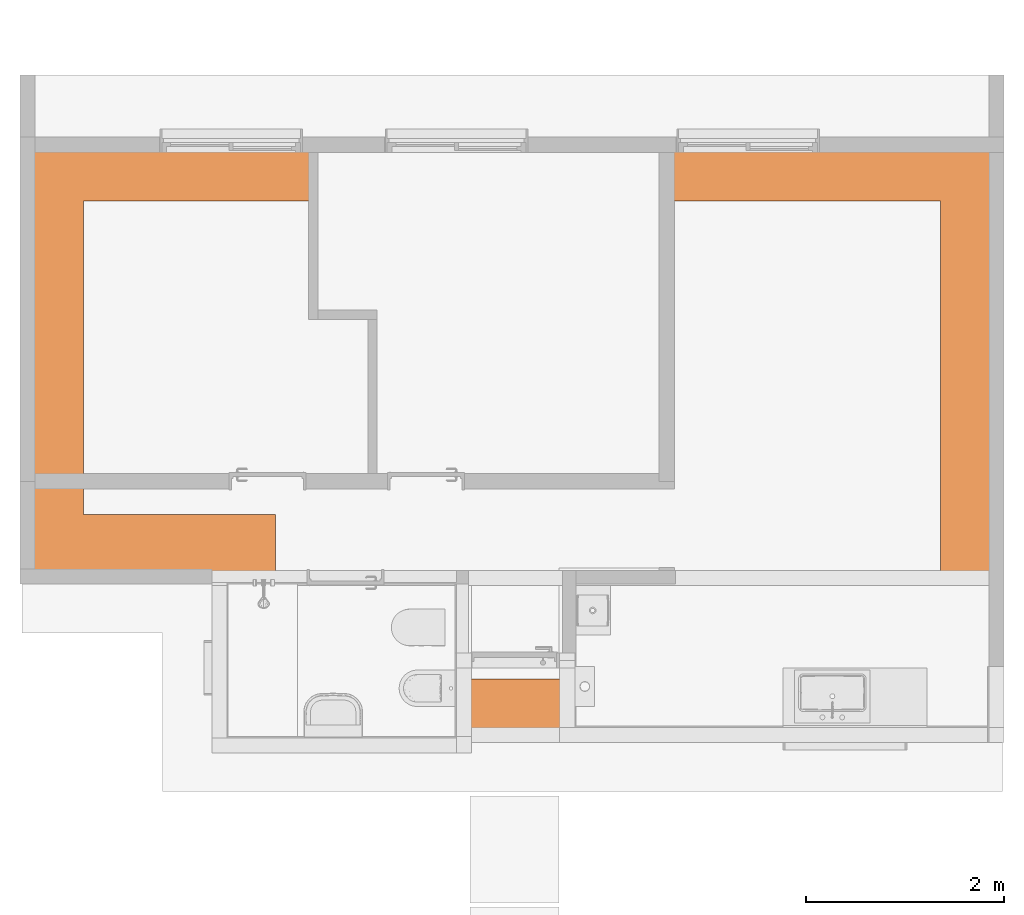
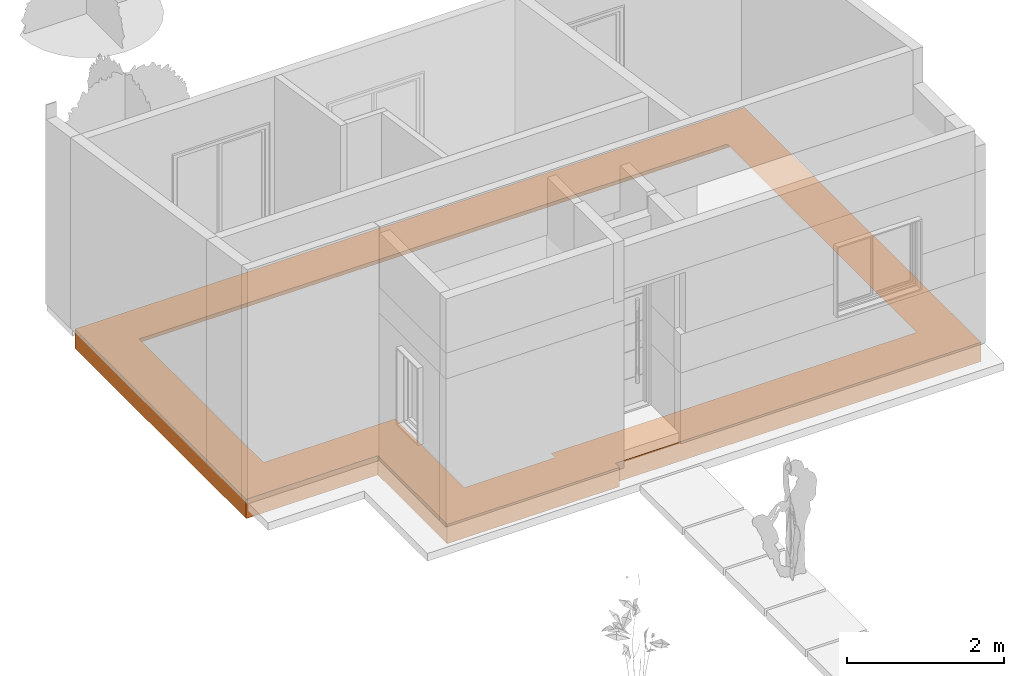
# One storey, part 8 of 8: 1 proxy.
"""IFC2X3 building model written with IfcOpenShell, lengths in metres."""

from ifc_helpers import new_model, entity, si_unit, converted_unit, derived_unit, direction, frame, origin, place, context, subcontext, project, spatial, faceted_brep, element, save


model = new_model("IFC2X3")

# Units and contexts
model_context = context("Model", 3, precision=1e-05, world=origin(), true_north=direction((6.12303176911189e-17, 1.0)))
body_context = subcontext(model_context, "Body", "Model", "MODEL_VIEW")
ifc_project = project(units=[si_unit("LENGTHUNIT", "METRE"), si_unit("AREAUNIT", "SQUARE_METRE"), si_unit("VOLUMEUNIT", "CUBIC_METRE"), converted_unit("PLANEANGLEUNIT", "DEGREE", entity("IfcRatioMeasure", 0.0174532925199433), si_unit("PLANEANGLEUNIT", "RADIAN"), dimensions=[0, 0, 0, 0, 0, 0, 0]), si_unit("MASSUNIT", "GRAM", prefix="KILO"), derived_unit("MASSDENSITYUNIT", [(si_unit("MASSUNIT", "GRAM", prefix="KILO"), 1), (si_unit("LENGTHUNIT", "METRE"), -3)]), si_unit("TIMEUNIT", "SECOND"), si_unit("FREQUENCYUNIT", "HERTZ"), si_unit("THERMODYNAMICTEMPERATUREUNIT", "DEGREE_CELSIUS"), derived_unit("THERMALTRANSMITTANCEUNIT", [(si_unit("MASSUNIT", "GRAM", prefix="KILO"), 1), (si_unit("THERMODYNAMICTEMPERATUREUNIT", "KELVIN"), -1), (si_unit("TIMEUNIT", "SECOND"), -3)]), derived_unit("VOLUMETRICFLOWRATEUNIT", [(si_unit("LENGTHUNIT", "METRE"), 3), (si_unit("TIMEUNIT", "SECOND"), -1)]), si_unit("ELECTRICCURRENTUNIT", "AMPERE"), si_unit("ELECTRICVOLTAGEUNIT", "VOLT"), si_unit("POWERUNIT", "WATT"), si_unit("FORCEUNIT", "NEWTON", prefix="KILO"), si_unit("ILLUMINANCEUNIT", "LUX"), si_unit("LUMINOUSFLUXUNIT", "LUMEN"), si_unit("LUMINOUSINTENSITYUNIT", "CANDELA"), derived_unit("USERDEFINED", [(si_unit("MASSUNIT", "GRAM", prefix="KILO"), -1), (si_unit("LENGTHUNIT", "METRE"), -2), (si_unit("TIMEUNIT", "SECOND"), 3), (si_unit("LUMINOUSFLUXUNIT", "LUMEN"), 1)]), derived_unit("LINEARVELOCITYUNIT", [(si_unit("LENGTHUNIT", "METRE"), 1), (si_unit("TIMEUNIT", "SECOND"), -1)]), si_unit("PRESSUREUNIT", "PASCAL"), derived_unit("USERDEFINED", [(si_unit("LENGTHUNIT", "METRE"), -2), (si_unit("MASSUNIT", "GRAM", prefix="KILO"), 1), (si_unit("TIMEUNIT", "SECOND"), -2)])], contexts=[model_context])

# Site, building, storey
site_placement = place(None, origin())
site = spatial("IfcSite", under=ifc_project, at=site_placement, Name="Surface", CompositionType="ELEMENT")
building_placement = place(site_placement, origin())
building = spatial("IfcBuilding", under=site, at=building_placement, CompositionType="ELEMENT")
storey_placement = place(building_placement, origin())
storey = spatial("IfcBuildingStorey", under=building, at=storey_placement, Name="Nivel 0.0", CompositionType="ELEMENT", Elevation=0.0)

# Proxy
proxy_placement = place(storey_placement, frame((-8.95308547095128, -3.48078532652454, -0.475816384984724)))
element("IfcBuildingElementProxy", 1, at=proxy_placement, inside=storey, Name="Slab Edge:Slab Edge", ObjectType="Slab Edge:Slab Edge", context=body_context, shape_type="Brep", body=[
    faceted_brep([(0.0, 6.12999999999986, 0.300000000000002), (0.0, 6.12999999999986, 0.0), (0.0, 1.76373662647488, 0.0), (0.0, 1.76373662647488, 0.300000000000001), (0.600000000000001, 5.52999999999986, 0.300000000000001), (0.6, 2.36373662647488, 0.300000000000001), (0.300000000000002, 5.82999999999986, 0.0), (0.300000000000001, 2.06373662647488, 0.0), (9.84800000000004, 6.12999999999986, 0.300000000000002), (9.84800000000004, 6.12999999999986, 0.0), (9.24800000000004, 5.52999999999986, 0.300000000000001), (9.54800000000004, 5.82999999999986, 0.0), (9.84800000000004, 0.104999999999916, 0.300000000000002), (9.84800000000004, 0.104999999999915, 0.0), (9.24800000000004, 0.704999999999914, 0.300000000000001), (9.54800000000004, 0.404999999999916, 0.0), (4.4720717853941, 0.104999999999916, 0.300000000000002), (4.4720717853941, 0.104999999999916, 0.0), (3.8720717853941, 0.704999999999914, 0.300000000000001), (4.1720717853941, 0.404999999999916, 0.0), (4.4720717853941, 0.0, 0.300000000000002), (4.4720717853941, 0.0, 0.0), (3.8720717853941, 0.599999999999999, 0.300000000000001), (4.1720717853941, 0.300000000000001, 0.0), (1.93707178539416, 0.0, 0.300000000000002), (1.93707178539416, 0.0, 0.0), (2.53707178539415, 0.599999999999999, 0.300000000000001), (2.23707178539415, 0.300000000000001, 0.0), (1.93707178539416, 1.76373662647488, 0.300000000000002), (1.93707178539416, 1.76373662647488, 0.0), (2.53707178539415, 2.36373662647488, 0.300000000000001), (2.23707178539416, 2.06373662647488, 0.0)], [[[0, 1, 2, 3]], [[4, 0, 3, 5]], [[6, 4, 5, 7]], [[1, 6, 7, 2]], [[8, 9, 1, 0]], [[10, 8, 0, 4]], [[11, 10, 4, 6]], [[9, 11, 6, 1]], [[12, 13, 9, 8]], [[14, 12, 8, 10]], [[15, 14, 10, 11]], [[13, 15, 11, 9]], [[16, 17, 13, 12]], [[18, 16, 12, 14]], [[19, 18, 14, 15]], [[17, 19, 15, 13]], [[20, 21, 17, 16]], [[22, 20, 16, 18]], [[23, 22, 18, 19]], [[21, 23, 19, 17]], [[24, 25, 21, 20]], [[26, 24, 20, 22]], [[27, 26, 22, 23]], [[25, 27, 23, 21]], [[28, 29, 25, 24]], [[30, 28, 24, 26]], [[31, 30, 26, 27]], [[29, 31, 27, 25]], [[3, 2, 29, 28]], [[5, 3, 28, 30]], [[7, 5, 30, 31]], [[2, 7, 31, 29]]]),
])

save(model, "model.ifc")
